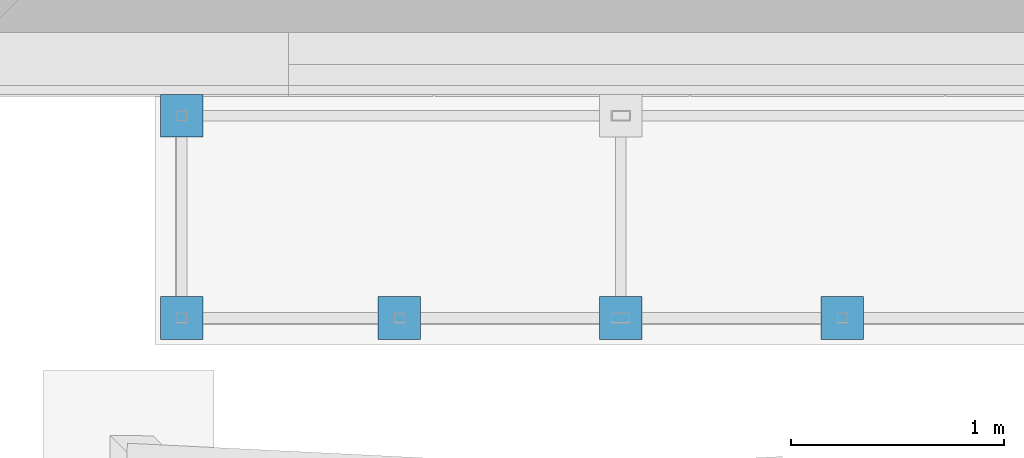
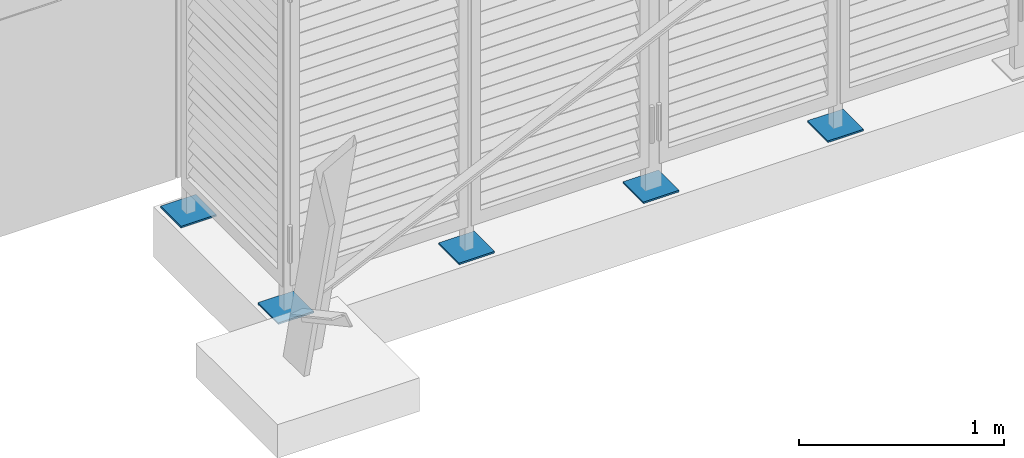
# One storey, part 60 of 418: 5 discrete accessories.
"""IFC2X3 building model written with IfcOpenShell, lengths in millimetres."""

from ifc_helpers import new_model, entity, si_unit, converted_unit, derived_unit, money_unit, direction, frame, origin_with_axes, place, context, subcontext, project, spatial, polyline, outline, extrude, material, type_object, element, save


model = new_model("IFC2X3")

# Units and contexts
model_context = context("Model", 3, precision=0.01, world=origin_with_axes(), true_north=direction((0.0, 1.0)))
body_context = subcontext(model_context, "Body", "Model", "MODEL_VIEW")
ifc_project = project(units=[si_unit("LENGTHUNIT", "METRE", prefix="MILLI"), si_unit("AREAUNIT", "SQUARE_METRE"), si_unit("VOLUMEUNIT", "CUBIC_METRE"), converted_unit("PLANEANGLEUNIT", "DEGREE", entity("IfcPlaneAngleMeasure", 0.0174532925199), si_unit("PLANEANGLEUNIT", "RADIAN"), dimensions=[0, 0, 0, 0, 0, 0, 0]), si_unit("SOLIDANGLEUNIT", "STERADIAN"), money_unit("EUR"), converted_unit("TIMEUNIT", "Year", entity("IfcTimeMeasure", 31556926.0), si_unit("TIMEUNIT", "SECOND"), dimensions=[0, 0, 1, 0, 0, 0, 0]), si_unit("MASSUNIT", "GRAM", prefix="KILO"), si_unit("THERMODYNAMICTEMPERATUREUNIT", "DEGREE_CELSIUS"), si_unit("LUMINOUSINTENSITYUNIT", "LUMEN"), si_unit("ENERGYUNIT", "JOULE", prefix="MEGA"), derived_unit("THERMALCONDUCTANCEUNIT", [(si_unit("POWERUNIT", "WATT"), 1), (si_unit("LENGTHUNIT", "METRE"), -1), (si_unit("THERMODYNAMICTEMPERATUREUNIT", "KELVIN"), -1)]), derived_unit("SPECIFICHEATCAPACITYUNIT", [(si_unit("ENERGYUNIT", "JOULE"), 1), (si_unit("MASSUNIT", "GRAM", prefix="KILO"), -1), (si_unit("THERMODYNAMICTEMPERATUREUNIT", "KELVIN"), -1)]), derived_unit("MASSDENSITYUNIT", [(si_unit("MASSUNIT", "GRAM", prefix="KILO"), 1), (si_unit("VOLUMEUNIT", "CUBIC_METRE"), -1)])], contexts=[model_context])

# Site, building, storey
site_placement = place(None, origin_with_axes())
site = spatial("IfcSite", under=ifc_project, at=site_placement, Name="Paldiski mnt 245/1, Tallinn, Harjumaa", CompositionType="COMPLEX")
building_placement = place(site_placement, origin_with_axes())
building = spatial("IfcBuilding", under=site, at=building_placement, Name="RKAS Hoone üldnimetus (kasutust iseloomustav) -> IFC Project Manager -> SOLIBRI", CompositionType="ELEMENT")
storey_placement = place(building_placement, origin_with_axes())
storey = spatial("IfcBuildingStorey", under=building, at=storey_placement, Name="Esimene korrus", CompositionType="ELEMENT", Elevation=0.0)

# Discrete accessories
ifc_material = material(Name="Teras")
discrete_accessory_type = type_object("IfcDiscreteAccessoryType", Name="Teras 10")
for number, where, z_axis, x_axis in (
    (1, (-55889.3907599, -1630.71022117, -140.0), (0.0, 0.0, 1.0), (1.0, 0.0, 0.0)),
    (2, (-52790.0, -1630.71022117, -140.0), (0.0, 0.0, 1.0), (1.0, 0.0, 0.0)),
    (3, (-54869.7862711, -1630.71022117, -140.0), (0.0, 0.0, 1.0), (1.0, 0.0, 0.0)),
    (4, (-55889.3907599, -680.710221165, -140.0), (0.0, 0.0, 1.0), (1.0, 0.0, 0.0)),
    (5, (-53830.0, -1630.71022117, -140.0), (0.0, 0.0, 1.0), (1.0, 0.0, 0.0)),
):
    element("IfcDiscreteAccessory", number, at=place(storey_placement, frame(where, z_axis=z_axis, x_axis=x_axis)), inside=storey, type_object=discrete_accessory_type, material=ifc_material, Name="Kinnitus", context=body_context, shape_type="SweptSolid", body=[
        extrude(outline(polyline([(0.0, 0.0), (200.0, 0.0), (200.0, 200.0), (0.0, 200.0), (0.0, 0.0)])), frame((0.0, 0.0, -10.0), z_axis=(0.0, 0.0, 1.0), x_axis=(1.0, 0.0, 0.0)), (0.0, 0.0, 1.0), 10.0),
    ])

save(model, "model.ifc")
